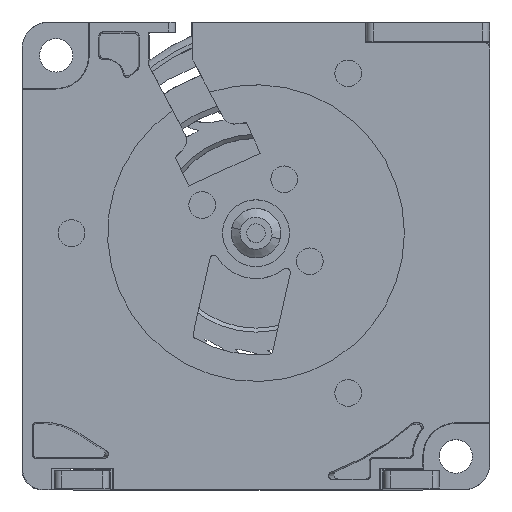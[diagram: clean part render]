
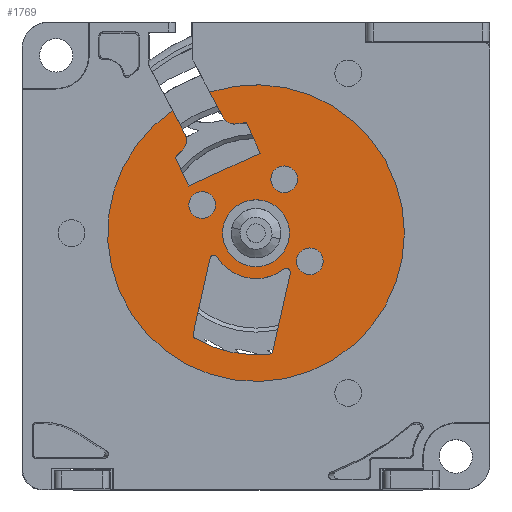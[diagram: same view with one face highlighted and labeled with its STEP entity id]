
A CAD part, top view. The second image highlights one B-rep face of the part: STEP entity #1769.
In plain terms, the highlighted planar face has unit normal (0, 0, 1).
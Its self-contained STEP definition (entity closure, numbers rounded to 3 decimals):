
#1769=ADVANCED_FACE('',(#2245,#2246,#2247,#2248,#2249,#2250),#2174,.T.);
#2174=PLANE('',#15082);
#2245=FACE_BOUND('',#2977,.T.);
#2246=FACE_BOUND('',#2978,.T.);
#2247=FACE_BOUND('',#2979,.T.);
#2248=FACE_BOUND('',#2980,.T.);
#2249=FACE_BOUND('',#2981,.T.);
#2250=FACE_BOUND('',#2982,.T.);
#2977=EDGE_LOOP('',(#8186,#8187,#8188,#8189,#8190,#8191,#8192,#8193,#8194,
#8195));
#2978=EDGE_LOOP('',(#8196,#8197));
#2979=EDGE_LOOP('',(#8198,#8199));
#2980=EDGE_LOOP('',(#8200,#8201));
#2981=EDGE_LOOP('',(#8202,#8203));
#2982=EDGE_LOOP('',(#8204,#8205,#8206,#8207,#8208,#8209,#8210,#8211));
#4076=CIRCLE('',#15062,1.);
#4077=CIRCLE('',#15064,8.3);
#4078=CIRCLE('',#15065,8.3);
#4079=CIRCLE('',#15066,1.);
#4080=CIRCLE('',#15067,11.1);
#4081=CIRCLE('',#15068,1.);
#4082=CIRCLE('',#15069,1.);
#4083=CIRCLE('',#15070,1.);
#4084=CIRCLE('',#15071,1.);
#4085=CIRCLE('',#15072,1.);
#4086=CIRCLE('',#15073,1.);
#4087=CIRCLE('',#15074,2.5);
#4088=CIRCLE('',#15075,2.5);
#4089=CIRCLE('',#15076,0.3);
#4090=CIRCLE('',#15077,3.4);
#4091=CIRCLE('',#15078,0.3);
#4092=CIRCLE('',#15079,0.3);
#4093=CIRCLE('',#15080,9.1);
#4094=CIRCLE('',#15081,0.3);
#8186=ORIENTED_EDGE('',*,*,#11780,.F.);
#8187=ORIENTED_EDGE('',*,*,#11781,.F.);
#8188=ORIENTED_EDGE('',*,*,#11782,.F.);
#8189=ORIENTED_EDGE('',*,*,#11783,.F.);
#8190=ORIENTED_EDGE('',*,*,#11784,.F.);
#8191=ORIENTED_EDGE('',*,*,#11785,.T.);
#8192=ORIENTED_EDGE('',*,*,#11692,.T.);
#8193=ORIENTED_EDGE('',*,*,#11786,.T.);
#8194=ORIENTED_EDGE('',*,*,#11448,.F.);
#8195=ORIENTED_EDGE('',*,*,#11779,.T.);
#8196=ORIENTED_EDGE('',*,*,#11787,.T.);
#8197=ORIENTED_EDGE('',*,*,#11788,.T.);
#8198=ORIENTED_EDGE('',*,*,#11789,.T.);
#8199=ORIENTED_EDGE('',*,*,#11790,.T.);
#8200=ORIENTED_EDGE('',*,*,#11791,.T.);
#8201=ORIENTED_EDGE('',*,*,#11792,.T.);
#8202=ORIENTED_EDGE('',*,*,#11793,.F.);
#8203=ORIENTED_EDGE('',*,*,#11794,.F.);
#8204=ORIENTED_EDGE('',*,*,#11795,.T.);
#8205=ORIENTED_EDGE('',*,*,#11796,.F.);
#8206=ORIENTED_EDGE('',*,*,#11797,.T.);
#8207=ORIENTED_EDGE('',*,*,#11798,.T.);
#8208=ORIENTED_EDGE('',*,*,#11799,.T.);
#8209=ORIENTED_EDGE('',*,*,#11800,.T.);
#8210=ORIENTED_EDGE('',*,*,#11801,.T.);
#8211=ORIENTED_EDGE('',*,*,#11802,.T.);
#9504=VERTEX_POINT('',#25597);
#9505=VERTEX_POINT('',#25599);
#9662=VERTEX_POINT('',#26856);
#9663=VERTEX_POINT('',#26858);
#9709=VERTEX_POINT('',#27130);
#9710=VERTEX_POINT('',#27134);
#9711=VERTEX_POINT('',#27136);
#9712=VERTEX_POINT('',#27138);
#9713=VERTEX_POINT('',#27140);
#9714=VERTEX_POINT('',#27142);
#9715=VERTEX_POINT('',#27146);
#9716=VERTEX_POINT('',#27147);
#9717=VERTEX_POINT('',#27150);
#9718=VERTEX_POINT('',#27151);
#9719=VERTEX_POINT('',#27154);
#9720=VERTEX_POINT('',#27155);
#9721=VERTEX_POINT('',#27158);
#9722=VERTEX_POINT('',#27159);
#9723=VERTEX_POINT('',#27162);
#9724=VERTEX_POINT('',#27163);
#9725=VERTEX_POINT('',#27165);
#9726=VERTEX_POINT('',#27167);
#9727=VERTEX_POINT('',#27169);
#9728=VERTEX_POINT('',#27171);
#9729=VERTEX_POINT('',#27173);
#9730=VERTEX_POINT('',#27175);
#11448=EDGE_CURVE('',#9504,#9505,#12580,.T.);
#11692=EDGE_CURVE('',#9663,#9662,#12739,.T.);
#11779=EDGE_CURVE('',#9504,#9709,#4076,.T.);
#11780=EDGE_CURVE('',#9710,#9709,#4077,.T.);
#11781=EDGE_CURVE('',#9711,#9710,#12789,.T.);
#11782=EDGE_CURVE('',#9712,#9711,#12790,.T.);
#11783=EDGE_CURVE('',#9713,#9712,#12791,.T.);
#11784=EDGE_CURVE('',#9714,#9713,#4078,.T.);
#11785=EDGE_CURVE('',#9714,#9663,#4079,.T.);
#11786=EDGE_CURVE('',#9662,#9505,#4080,.T.);
#11787=EDGE_CURVE('',#9715,#9716,#4081,.T.);
#11788=EDGE_CURVE('',#9716,#9715,#4082,.T.);
#11789=EDGE_CURVE('',#9717,#9718,#4083,.T.);
#11790=EDGE_CURVE('',#9718,#9717,#4084,.T.);
#11791=EDGE_CURVE('',#9719,#9720,#4085,.T.);
#11792=EDGE_CURVE('',#9720,#9719,#4086,.T.);
#11793=EDGE_CURVE('',#9721,#9722,#4087,.T.);
#11794=EDGE_CURVE('',#9722,#9721,#4088,.T.);
#11795=EDGE_CURVE('',#9723,#9724,#4089,.T.);
#11796=EDGE_CURVE('',#9725,#9724,#4090,.T.);
#11797=EDGE_CURVE('',#9725,#9726,#4091,.T.);
#11798=EDGE_CURVE('',#9726,#9727,#12792,.T.);
#11799=EDGE_CURVE('',#9727,#9728,#4092,.T.);
#11800=EDGE_CURVE('',#9728,#9729,#4093,.T.);
#11801=EDGE_CURVE('',#9729,#9730,#4094,.T.);
#11802=EDGE_CURVE('',#9730,#9723,#12793,.T.);
#12580=LINE('',#25598,#13563);
#12739=LINE('',#26857,#13722);
#12789=LINE('',#27135,#13774);
#12790=LINE('',#27137,#13775);
#12791=LINE('',#27139,#13776);
#12792=LINE('',#27168,#13777);
#12793=LINE('',#27176,#13778);
#13563=VECTOR('',#17983,1.);
#13722=VECTOR('',#18380,1.);
#13774=VECTOR('',#18572,1.);
#13775=VECTOR('',#18573,1.);
#13776=VECTOR('',#18574,1.);
#13777=VECTOR('',#18603,1.);
#13778=VECTOR('',#18610,1.);
#15062=AXIS2_PLACEMENT_3D('',#27131,#18566,#18567);
#15064=AXIS2_PLACEMENT_3D('',#27133,#18570,#18571);
#15065=AXIS2_PLACEMENT_3D('',#27141,#18575,#18576);
#15066=AXIS2_PLACEMENT_3D('',#27143,#18577,#18578);
#15067=AXIS2_PLACEMENT_3D('',#27144,#18579,#18580);
#15068=AXIS2_PLACEMENT_3D('',#27145,#18581,#18582);
#15069=AXIS2_PLACEMENT_3D('',#27148,#18583,#18584);
#15070=AXIS2_PLACEMENT_3D('',#27149,#18585,#18586);
#15071=AXIS2_PLACEMENT_3D('',#27152,#18587,#18588);
#15072=AXIS2_PLACEMENT_3D('',#27153,#18589,#18590);
#15073=AXIS2_PLACEMENT_3D('',#27156,#18591,#18592);
#15074=AXIS2_PLACEMENT_3D('',#27157,#18593,#18594);
#15075=AXIS2_PLACEMENT_3D('',#27160,#18595,#18596);
#15076=AXIS2_PLACEMENT_3D('',#27161,#18597,#18598);
#15077=AXIS2_PLACEMENT_3D('',#27164,#18599,#18600);
#15078=AXIS2_PLACEMENT_3D('',#27166,#18601,#18602);
#15079=AXIS2_PLACEMENT_3D('',#27170,#18604,#18605);
#15080=AXIS2_PLACEMENT_3D('',#27172,#18606,#18607);
#15081=AXIS2_PLACEMENT_3D('',#27174,#18608,#18609);
#15082=AXIS2_PLACEMENT_3D('',#27177,#18611,#18612);
#17983=DIRECTION('',(-0.466,0.885,0.));
#18380=DIRECTION('',(-0.466,0.885,0.));
#18566=DIRECTION('',(0.,0.,1.));
#18567=DIRECTION('',(-0.885,-0.466,0.));
#18570=DIRECTION('',(0.,0.,1.));
#18571=DIRECTION('',(-0.088,0.996,0.));
#18572=DIRECTION('',(-0.416,0.909,0.));
#18573=DIRECTION('',(0.909,0.416,0.));
#18574=DIRECTION('',(0.416,-0.909,0.));
#18575=DIRECTION('',(0.,0.,1.));
#18576=DIRECTION('',(-0.666,0.746,0.));
#18577=DIRECTION('',(0.,0.,1.));
#18578=DIRECTION('',(0.666,-0.746,0.));
#18579=DIRECTION('',(0.,0.,1.));
#18580=DIRECTION('',(-0.562,0.827,0.));
#18581=DIRECTION('',(0.,0.,-1.));
#18582=DIRECTION('',(-1.,0.,0.));
#18583=DIRECTION('',(0.,0.,-1.));
#18584=DIRECTION('',(1.,0.,0.));
#18585=DIRECTION('',(0.,0.,-1.));
#18586=DIRECTION('',(-1.,0.,0.));
#18587=DIRECTION('',(0.,0.,-1.));
#18588=DIRECTION('',(1.,0.,0.));
#18589=DIRECTION('',(0.,0.,-1.));
#18590=DIRECTION('',(-1.,0.,0.));
#18591=DIRECTION('',(0.,0.,-1.));
#18592=DIRECTION('',(1.,0.,0.));
#18593=DIRECTION('',(0.,0.,1.));
#18594=DIRECTION('',(-1.,0.,0.));
#18595=DIRECTION('',(0.,0.,1.));
#18596=DIRECTION('',(1.,0.,0.));
#18597=DIRECTION('',(0.,0.,-1.));
#18598=DIRECTION('',(-0.976,0.218,0.));
#18599=DIRECTION('',(0.,0.,-1.));
#18600=DIRECTION('',(0.614,-0.79,0.));
#18601=DIRECTION('',(0.,0.,-1.));
#18602=DIRECTION('',(-0.614,0.79,0.));
#18603=DIRECTION('',(-0.218,-0.976,0.));
#18604=DIRECTION('',(0.,0.,-1.));
#18605=DIRECTION('',(0.976,-0.218,0.));
#18606=DIRECTION('',(0.,0.,-1.));
#18607=DIRECTION('',(0.11,-0.994,0.));
#18608=DIRECTION('',(0.,0.,-1.));
#18609=DIRECTION('',(-0.501,-0.865,0.));
#18610=DIRECTION('',(0.218,0.976,0.));
#18611=DIRECTION('',(0.,0.,1.));
#18612=DIRECTION('',(-1.,0.,0.));
#25597=CARTESIAN_POINT('',(-2.485,10.395,8.6));
#25598=CARTESIAN_POINT('',(-2.485,10.395,8.6));
#25599=CARTESIAN_POINT('',(-3.46,12.247,8.6));
#26856=CARTESIAN_POINT('',(-6.242,10.879,8.6));
#26857=CARTESIAN_POINT('',(-5.308,9.104,8.6));
#26858=CARTESIAN_POINT('',(-5.308,9.104,8.6));
#27130=CARTESIAN_POINT('',(-1.428,9.876,8.6));
#27131=CARTESIAN_POINT('',(-1.6,10.861,8.6));
#27133=CARTESIAN_POINT('',(0.,1.7,8.6));
#27134=CARTESIAN_POINT('',(-0.727,9.968,8.6));
#27135=CARTESIAN_POINT('',(0.32,7.681,8.6));
#27136=CARTESIAN_POINT('',(0.32,7.681,8.6));
#27137=CARTESIAN_POINT('',(-5.047,5.226,8.6));
#27138=CARTESIAN_POINT('',(-5.047,5.226,8.6));
#27139=CARTESIAN_POINT('',(-6.039,7.394,8.6));
#27140=CARTESIAN_POINT('',(-6.039,7.394,8.6));
#27141=CARTESIAN_POINT('',(0.,1.7,8.6));
#27142=CARTESIAN_POINT('',(-5.527,7.892,8.6));
#27143=CARTESIAN_POINT('',(-6.193,8.639,8.6));
#27144=CARTESIAN_POINT('',(0.,1.7,8.6));
#27145=CARTESIAN_POINT('',(2.11,5.727,8.6));
#27146=CARTESIAN_POINT('',(1.11,5.727,8.6));
#27147=CARTESIAN_POINT('',(3.11,5.727,8.6));
#27148=CARTESIAN_POINT('',(2.11,5.727,8.6));
#27149=CARTESIAN_POINT('',(4.027,-0.41,8.6));
#27150=CARTESIAN_POINT('',(3.027,-0.41,8.6));
#27151=CARTESIAN_POINT('',(5.027,-0.41,8.6));
#27152=CARTESIAN_POINT('',(4.027,-0.41,8.6));
#27153=CARTESIAN_POINT('',(-4.027,3.81,8.6));
#27154=CARTESIAN_POINT('',(-5.027,3.81,8.6));
#27155=CARTESIAN_POINT('',(-3.027,3.81,8.6));
#27156=CARTESIAN_POINT('',(-4.027,3.81,8.6));
#27157=CARTESIAN_POINT('',(0.,1.7,8.6));
#27158=CARTESIAN_POINT('',(-2.5,1.7,8.6));
#27159=CARTESIAN_POINT('',(2.5,1.7,8.6));
#27160=CARTESIAN_POINT('',(0.,1.7,8.6));
#27161=CARTESIAN_POINT('',(-3.147,-0.246,8.6));
#27162=CARTESIAN_POINT('',(-3.44,-0.181,8.6));
#27163=CARTESIAN_POINT('',(-2.892,-0.088,8.6));
#27164=CARTESIAN_POINT('',(0.,1.7,8.6));
#27165=CARTESIAN_POINT('',(2.087,-0.984,8.6));
#27166=CARTESIAN_POINT('',(2.271,-1.221,8.6));
#27167=CARTESIAN_POINT('',(2.564,-1.287,8.6));
#27168=CARTESIAN_POINT('',(2.564,-1.287,8.6));
#27169=CARTESIAN_POINT('',(1.265,-7.111,8.6));
#27170=CARTESIAN_POINT('',(0.972,-7.046,8.6));
#27171=CARTESIAN_POINT('',(1.005,-7.344,8.6));
#27172=CARTESIAN_POINT('',(0.,1.7,8.6));
#27173=CARTESIAN_POINT('',(-4.561,-6.174,8.6));
#27174=CARTESIAN_POINT('',(-4.411,-5.915,8.6));
#27175=CARTESIAN_POINT('',(-4.704,-5.849,8.6));
#27176=CARTESIAN_POINT('',(-4.704,-5.849,8.6));
#27177=CARTESIAN_POINT('',(0.,25.8,8.6));
